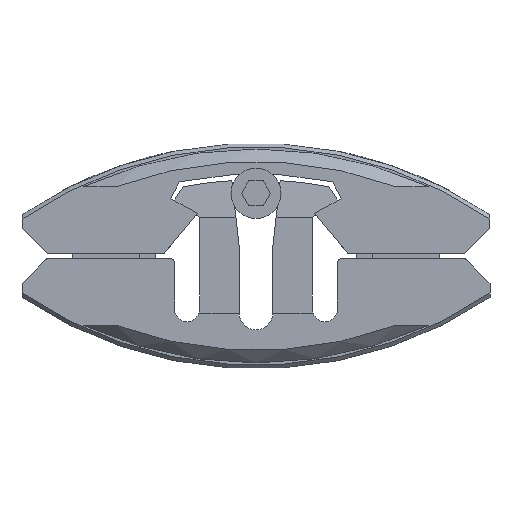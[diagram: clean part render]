
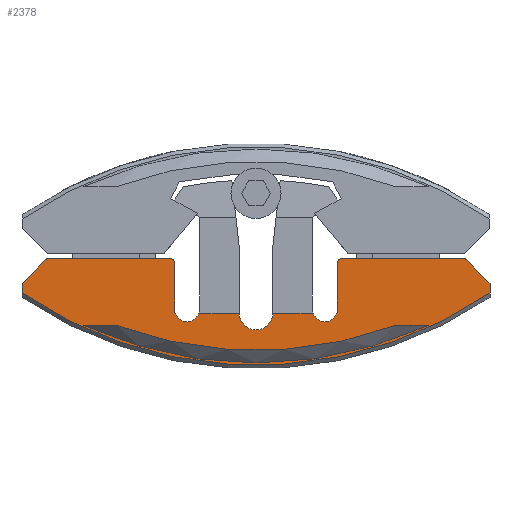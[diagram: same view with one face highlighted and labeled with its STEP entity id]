
A CAD part, front view. The second image highlights one B-rep face of the part: STEP entity #2378.
In plain terms, the highlighted planar face has unit normal (0, -1, 0).
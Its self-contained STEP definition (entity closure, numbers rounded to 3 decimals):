
#71=CIRCLE('',#2490,49.75);
#89=CIRCLE('',#2552,0.5);
#92=CIRCLE('',#2557,1.5);
#94=CIRCLE('',#2560,0.5);
#95=CIRCLE('',#2563,0.5);
#98=CIRCLE('',#2569,48.);
#99=CIRCLE('',#2573,0.5);
#104=CIRCLE('',#2585,1.5);
#105=CIRCLE('',#2586,2.);
#106=CIRCLE('',#2587,49.5);
#143=LINE('',#3374,#399);
#145=LINE('',#3378,#401);
#232=LINE('',#3647,#488);
#238=LINE('',#3667,#494);
#243=LINE('',#3681,#499);
#245=LINE('',#3685,#501);
#249=LINE('',#3695,#505);
#250=LINE('',#3697,#506);
#255=LINE('',#3710,#511);
#256=LINE('',#3712,#512);
#263=LINE('',#3731,#519);
#265=LINE('',#3737,#521);
#399=VECTOR('',#2698,1000.);
#401=VECTOR('',#2702,1000.);
#488=VECTOR('',#2921,1000.);
#494=VECTOR('',#2941,1000.);
#499=VECTOR('',#2954,1000.);
#501=VECTOR('',#2958,1000.);
#505=VECTOR('',#2970,1000.);
#506=VECTOR('',#2973,1000.);
#511=VECTOR('',#2986,1000.);
#512=VECTOR('',#2989,1000.);
#519=VECTOR('',#3010,1000.);
#521=VECTOR('',#3016,1000.);
#955=ORIENTED_EDGE('',*,*,#1497,.T.);
#956=ORIENTED_EDGE('',*,*,#1355,.T.);
#957=ORIENTED_EDGE('',*,*,#1491,.T.);
#958=ORIENTED_EDGE('',*,*,#1489,.T.);
#959=ORIENTED_EDGE('',*,*,#1485,.T.);
#960=ORIENTED_EDGE('',*,*,#1482,.T.);
#961=ORIENTED_EDGE('',*,*,#1480,.T.);
#962=ORIENTED_EDGE('',*,*,#1516,.T.);
#963=ORIENTED_EDGE('',*,*,#1518,.T.);
#964=ORIENTED_EDGE('',*,*,#1519,.T.);
#965=ORIENTED_EDGE('',*,*,#1520,.F.);
#966=ORIENTED_EDGE('',*,*,#1506,.T.);
#967=ORIENTED_EDGE('',*,*,#1476,.T.);
#968=ORIENTED_EDGE('',*,*,#1472,.T.);
#969=ORIENTED_EDGE('',*,*,#1467,.T.);
#970=ORIENTED_EDGE('',*,*,#1505,.T.);
#971=ORIENTED_EDGE('',*,*,#1501,.T.);
#972=ORIENTED_EDGE('',*,*,#1498,.F.);
#973=ORIENTED_EDGE('',*,*,#1350,.T.);
#974=ORIENTED_EDGE('',*,*,#1521,.T.);
#975=ORIENTED_EDGE('',*,*,#1352,.F.);
#976=ORIENTED_EDGE('',*,*,#1494,.F.);
#1350=EDGE_CURVE('',#1698,#1696,#143,.T.);
#1352=EDGE_CURVE('',#1699,#1700,#145,.T.);
#1355=EDGE_CURVE('',#1702,#1703,#71,.F.);
#1467=EDGE_CURVE('',#1782,#1783,#89,.F.);
#1472=EDGE_CURVE('',#1787,#1782,#232,.T.);
#1476=EDGE_CURVE('',#1789,#1787,#92,.T.);
#1480=EDGE_CURVE('',#1793,#1792,#94,.F.);
#1482=EDGE_CURVE('',#1794,#1793,#238,.T.);
#1485=EDGE_CURVE('',#1796,#1794,#95,.F.);
#1489=EDGE_CURVE('',#1799,#1796,#243,.T.);
#1491=EDGE_CURVE('',#1703,#1799,#245,.T.);
#1494=EDGE_CURVE('',#1698,#1699,#98,.T.);
#1497=EDGE_CURVE('',#1800,#1702,#249,.T.);
#1498=EDGE_CURVE('',#1800,#1802,#250,.T.);
#1501=EDGE_CURVE('',#1804,#1802,#99,.F.);
#1505=EDGE_CURVE('',#1783,#1804,#255,.T.);
#1506=EDGE_CURVE('',#1806,#1789,#256,.T.);
#1516=EDGE_CURVE('',#1792,#1811,#263,.T.);
#1518=EDGE_CURVE('',#1811,#1812,#104,.T.);
#1519=EDGE_CURVE('',#1812,#1813,#265,.T.);
#1520=EDGE_CURVE('',#1806,#1813,#105,.F.);
#1521=EDGE_CURVE('',#1696,#1700,#106,.T.);
#1696=VERTEX_POINT('',#3372);
#1698=VERTEX_POINT('',#3375);
#1699=VERTEX_POINT('',#3379);
#1700=VERTEX_POINT('',#3380);
#1702=VERTEX_POINT('',#3389);
#1703=VERTEX_POINT('',#3390);
#1782=VERTEX_POINT('',#3637);
#1783=VERTEX_POINT('',#3638);
#1787=VERTEX_POINT('',#3648);
#1789=VERTEX_POINT('',#3655);
#1792=VERTEX_POINT('',#3662);
#1793=VERTEX_POINT('',#3664);
#1794=VERTEX_POINT('',#3668);
#1796=VERTEX_POINT('',#3674);
#1799=VERTEX_POINT('',#3682);
#1800=VERTEX_POINT('',#3692);
#1802=VERTEX_POINT('',#3698);
#1804=VERTEX_POINT('',#3704);
#1806=VERTEX_POINT('',#3713);
#1811=VERTEX_POINT('',#3732);
#1812=VERTEX_POINT('',#3736);
#1813=VERTEX_POINT('',#3738);
#2004=EDGE_LOOP('',(#955,#956,#957,#958,#959,#960,#961,#962,#963,#964,#965,
#966,#967,#968,#969,#970,#971,#972));
#2005=EDGE_LOOP('',(#973,#974,#975,#976));
#2144=FACE_BOUND('',#2004,.T.);
#2145=FACE_BOUND('',#2005,.T.);
#2266=PLANE('',#2584);
#2378=ADVANCED_FACE('',(#2144,#2145),#2266,.F.);
#2490=AXIS2_PLACEMENT_3D('',#3388,#2706,#2707);
#2552=AXIS2_PLACEMENT_3D('',#3636,#2912,#2913);
#2557=AXIS2_PLACEMENT_3D('',#3654,#2928,#2929);
#2560=AXIS2_PLACEMENT_3D('',#3663,#2936,#2937);
#2563=AXIS2_PLACEMENT_3D('',#3673,#2946,#2947);
#2569=AXIS2_PLACEMENT_3D('',#3689,#2964,#2965);
#2573=AXIS2_PLACEMENT_3D('',#3703,#2978,#2979);
#2584=AXIS2_PLACEMENT_3D('',#3734,#3012,#3013);
#2585=AXIS2_PLACEMENT_3D('',#3735,#3014,#3015);
#2586=AXIS2_PLACEMENT_3D('',#3739,#3017,#3018);
#2587=AXIS2_PLACEMENT_3D('',#3740,#3019,#3020);
#2698=DIRECTION('',(1.,0.,0.));
#2702=DIRECTION('',(-1.,0.,0.));
#2706=DIRECTION('',(0.,1.,0.));
#2707=DIRECTION('',(0.,0.,1.));
#2912=DIRECTION('',(0.,1.,0.));
#2913=DIRECTION('',(0.,0.,1.));
#2921=DIRECTION('',(0.,0.,1.));
#2928=DIRECTION('',(0.,1.,0.));
#2929=DIRECTION('',(0.,0.,1.));
#2936=DIRECTION('',(0.,1.,0.));
#2937=DIRECTION('',(0.,0.,1.));
#2941=DIRECTION('',(-1.,0.,0.));
#2946=DIRECTION('',(0.,1.,0.));
#2947=DIRECTION('',(0.,0.,1.));
#2954=DIRECTION('',(-0.707,0.,0.707));
#2958=DIRECTION('',(0.,0.,1.));
#2964=DIRECTION('',(0.,1.,0.));
#2965=DIRECTION('',(-1.,0.,0.));
#2970=DIRECTION('',(0.,0.,-1.));
#2973=DIRECTION('',(0.707,0.,0.707));
#2978=DIRECTION('',(0.,1.,0.));
#2979=DIRECTION('',(0.,0.,1.));
#2986=DIRECTION('',(-1.,0.,0.));
#2989=DIRECTION('',(-1.,0.,0.));
#3010=DIRECTION('',(0.,0.,-1.));
#3012=DIRECTION('',(0.,1.,0.));
#3013=DIRECTION('',(0.,0.,1.));
#3014=DIRECTION('',(0.,1.,0.));
#3015=DIRECTION('',(0.,0.,1.));
#3016=DIRECTION('',(-1.,0.,0.));
#3017=DIRECTION('',(0.,1.,0.));
#3018=DIRECTION('',(0.,0.,1.));
#3019=DIRECTION('',(0.,1.,0.));
#3020=DIRECTION('',(-1.,0.,0.));
#3372=CARTESIAN_POINT('',(20.622,-3.45,-45.));
#3374=CARTESIAN_POINT('',(16.703,-3.45,-45.));
#3375=CARTESIAN_POINT('',(16.703,-3.45,-45.));
#3378=CARTESIAN_POINT('',(-16.703,-3.45,-45.));
#3379=CARTESIAN_POINT('',(-16.703,-3.45,-45.));
#3380=CARTESIAN_POINT('',(-20.622,-3.45,-45.));
#3388=CARTESIAN_POINT('',(0.,-3.45,0.));
#3389=CARTESIAN_POINT('',(-28.,-3.45,-41.123));
#3390=CARTESIAN_POINT('',(28.,-3.45,-41.123));
#3636=CARTESIAN_POINT('',(-10.25,-3.45,-37.5));
#3637=CARTESIAN_POINT('',(-9.75,-3.45,-37.5));
#3638=CARTESIAN_POINT('',(-10.25,-3.45,-37.));
#3647=CARTESIAN_POINT('',(-9.75,-3.45,-43.05));
#3648=CARTESIAN_POINT('',(-9.75,-3.45,-43.05));
#3654=CARTESIAN_POINT('',(-8.25,-3.45,-43.05));
#3655=CARTESIAN_POINT('',(-6.836,-3.45,-43.55));
#3662=CARTESIAN_POINT('',(9.75,-3.45,-37.5));
#3663=CARTESIAN_POINT('',(10.25,-3.45,-37.5));
#3664=CARTESIAN_POINT('',(10.25,-3.45,-37.));
#3667=CARTESIAN_POINT('',(-28.,-3.45,-37.));
#3668=CARTESIAN_POINT('',(24.793,-3.45,-37.));
#3673=CARTESIAN_POINT('',(24.793,-3.45,-37.5));
#3674=CARTESIAN_POINT('',(25.146,-3.45,-37.146));
#3681=CARTESIAN_POINT('',(-6.,-3.45,-6.));
#3682=CARTESIAN_POINT('',(28.,-3.45,-40.));
#3685=CARTESIAN_POINT('',(28.,-3.45,-37.));
#3689=CARTESIAN_POINT('',(0.,-3.45,0.));
#3692=CARTESIAN_POINT('',(-28.,-3.45,-40.));
#3695=CARTESIAN_POINT('',(-28.,-3.45,-50.2));
#3697=CARTESIAN_POINT('',(6.,-3.45,-6.));
#3698=CARTESIAN_POINT('',(-25.146,-3.45,-37.146));
#3703=CARTESIAN_POINT('',(-24.793,-3.45,-37.5));
#3704=CARTESIAN_POINT('',(-24.793,-3.45,-37.));
#3710=CARTESIAN_POINT('',(-28.,-3.45,-37.));
#3712=CARTESIAN_POINT('',(0.,-3.45,-43.55));
#3713=CARTESIAN_POINT('',(-2.,-3.45,-43.55));
#3731=CARTESIAN_POINT('',(9.75,-3.45,-43.05));
#3732=CARTESIAN_POINT('',(9.75,-3.45,-43.05));
#3734=CARTESIAN_POINT('',(0.,-3.45,0.));
#3735=CARTESIAN_POINT('',(8.25,-3.45,-43.05));
#3736=CARTESIAN_POINT('',(6.836,-3.45,-43.55));
#3737=CARTESIAN_POINT('',(9.,-3.45,-43.55));
#3738=CARTESIAN_POINT('',(2.,-3.45,-43.55));
#3739=CARTESIAN_POINT('',(0.,-3.45,-43.55));
#3740=CARTESIAN_POINT('',(0.,-3.45,0.));
